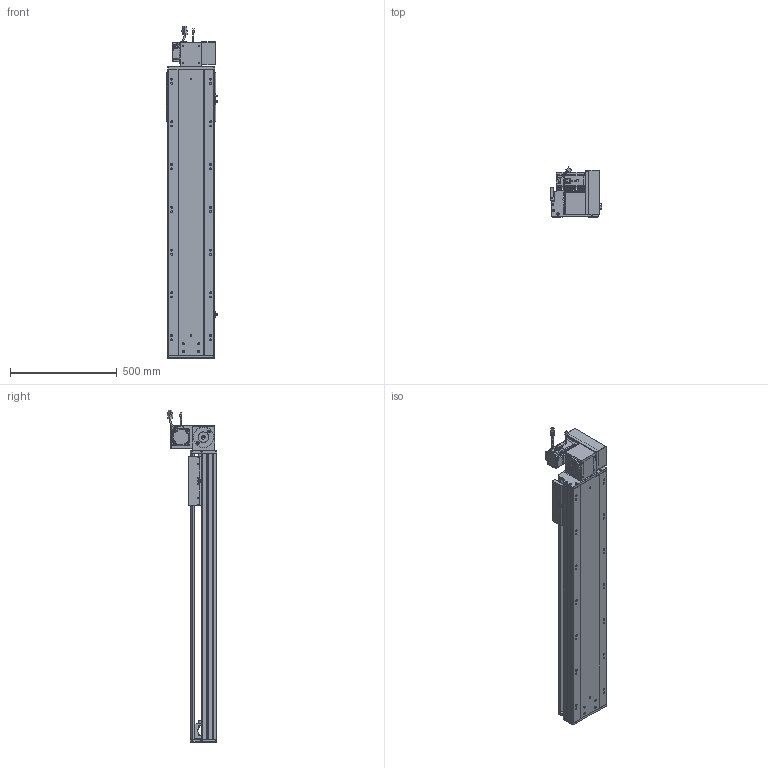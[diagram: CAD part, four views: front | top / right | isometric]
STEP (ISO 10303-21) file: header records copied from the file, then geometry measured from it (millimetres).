
FILE_DESCRIPTION (( 'STEP AP203' ), '1' );
FILE_NAME ('RY220-T-300-UR.SLDASM_1000.step', '2022-07-25T08:43:20', ( '' ), ( '' ), 'SwSTEP 2.0', 'SolidWorks 2016', '' );
FILE_SCHEMA (( 'CONFIG_CONTROL_DESIGN' ));
Length unit declared in the file: millimetre
Products named in the file (14): 怢湛750W_ECMA-CX0807ES; RY220-俋离672覜茼んえ; RY220-同步轮副支撑座6304×2; 滅袉蝶18-15; RY220翋肮祭謫釱; 覜茼ん672; 110A-T-肮祭謫釱傷裔; RY220圉猾敕々湍臏賑輸; RY220-T-300-奻裔啣_1000; RY220-T菁釱-300_1000; RY220-T-300-UR.SLDASM_1000; RY220-T-蛌殏萇儂假蚾啣(750W); RY220翋肮祭謫裔啣; RY220-T-湍謫欶(鍼踢)
Assembly tree (18 placements, depth 2):
  RY220-T-300-UR.SLDASM_1000
    RY220-T菁釱-300_1000
    RY220翋肮祭謫釱
    覜茼ん672  x3
    RY220圉猾敕々湍臏賑輸
    RY220-T-300-奻裔啣_1000
    RY220-俋离672覜茼んえ
    滅袉蝶18-15  x3
    RY220翋肮祭謫裔啣  x2
    110A-T-肮祭謫釱傷裔
    怢湛750W_ECMA-CX0807ES
    RY220-T-湍謫欶(鍼踢)
    RY220-T-蛌殏萇儂假蚾啣(750W)
    RY220-同步轮副支撑座6304×2
Bounding box: 238.7 x 231.74 x 1553.27 mm (x, y, z)
Volume: 12262086.1 mm3; surface area: 3580032.9 mm2
Topology: 19 solids, 19 shells, 2624 faces, 7235 edges, 4590 vertices
Faces by surface type: cylinder 1224, plane 1069, cone 249, bspline 56, sphere 16, torus 10
Entity records: 87187 total; most frequent: CARTESIAN_POINT 24853, ORIENTED_EDGE 12954, DIRECTION 12236, EDGE_CURVE 6477, AXIS2_PLACEMENT_3D 4322, VERTEX_POINT 4214, LINE 3592, VECTOR 3592
